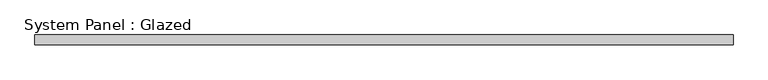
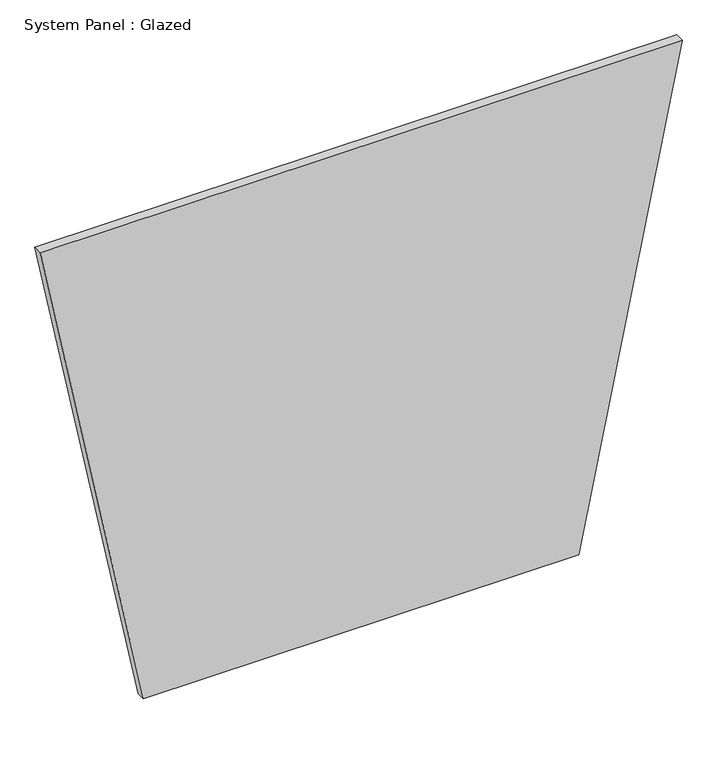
"""IFC4 building model written with IfcOpenShell, lengths in millimetres: plate geometry, System Panel : Glazed."""

from ifc_helpers import new_model, si_unit, frame, origin, place, context, project, spatial, polyline, outline, extrude, source, transform, mapped, element, save


def system_panel_glazed_fa418351(model_context):
    return source(origin(), model_context, "Body", "SweptSolid", [
        extrude(outline(polyline([(0.0, -612.5780916), (0.0, 612.5780916), (1429.8788447, 903.6196132), (1429.8788447, -903.6196132), (0.0, -612.5780916)])), frame((0.0, 19.05, 0.0), z_axis=(0.0, 1.0, 0.0), x_axis=(0.0, 0.0, 1.0)), (0.0, 0.0, 1.0), 25.4),
    ])


if __name__ == "__main__":
    model = new_model("IFC4")
    model_context = context("Model", 3, world=origin())
    ifc_project = project(units=[si_unit("LENGTHUNIT", "METRE", prefix="MILLI")], contexts=[model_context])
    site = spatial("IfcSite", under=ifc_project)
    building = spatial("IfcBuilding", under=site)
    placement = place(None, origin())
    system_panel_glazed_shape = system_panel_glazed_fa418351(model_context)
    element("IfcPlate", 1, ObjectType="System Panel : Glazed", at=placement, inside=building, context=model_context, shape_type="MappedRepresentation", body=[
        mapped(system_panel_glazed_shape, transform((0.0, 0.0, 0.0), x_axis=(1.0, 0.0, 0.0), y_axis=(0.0, 1.0, 0.0), z_axis=(0.0, 0.0, 1.0))),
    ])
    save(model, "model.ifc")
